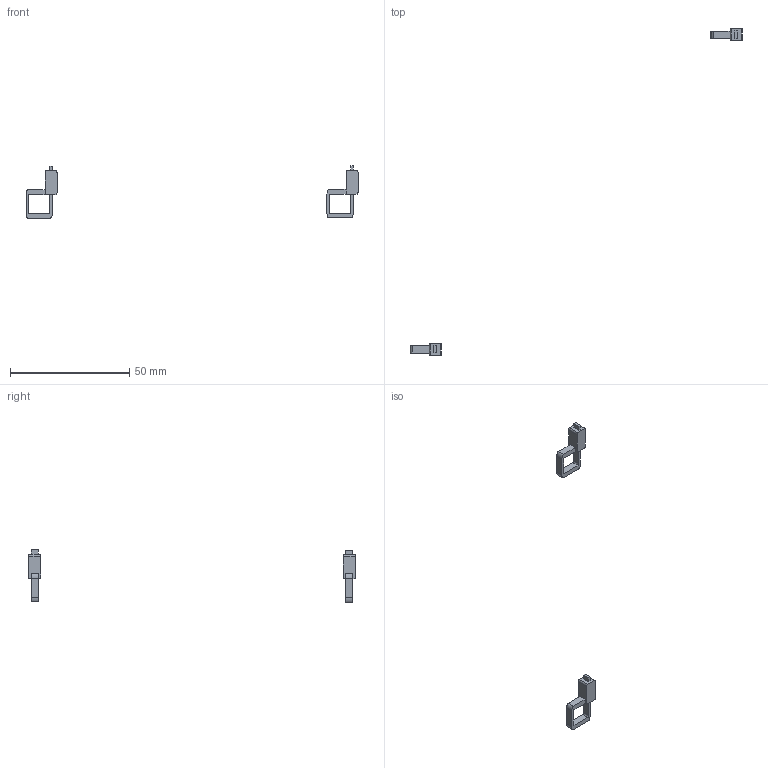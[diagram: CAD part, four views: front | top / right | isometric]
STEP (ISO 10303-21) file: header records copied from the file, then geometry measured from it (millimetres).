
FILE_DESCRIPTION(/* description */ (''),/* implementation_level */ '2;1');
FILE_NAME(/* name */ '9.electronics#9.2#la-zip',/* time_stamp */ '2014-12-01T20:18:47+01:00',/* author */ (''),/* organization */ (''),/* preprocessor_version */ 'ST-DEVELOPER v14',/* originating_system */ '',/* authorisation */ '');
FILE_SCHEMA (('AUTOMOTIVE_DESIGN'));
Length unit declared in the file: millimetre
Products named in the file (1): Document
Bounding box: 139.2 x 137 x 22.2 mm (x, y, z)
Volume: 827.5 mm3; surface area: 1141.4 mm2
Topology: 2 solids, 2 shells, 60 faces, 164 edges, 108 vertices
Faces by surface type: bspline 48, plane 12
Entity records: 3527 total; most frequent: CARTESIAN_POINT 1610, ORIENTED_EDGE 328, PCURVE 328, DEFINITIONAL_REPRESENTATION 328, B_SPLINE_CURVE_WITH_KNOTS 228, SURFACE_CURVE 164, EDGE_CURVE 164, VERTEX_POINT 108
